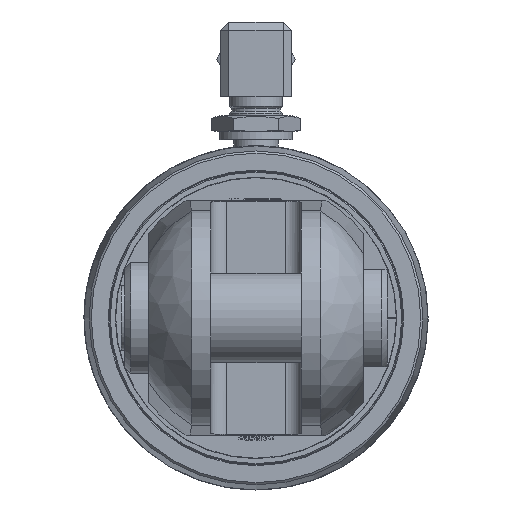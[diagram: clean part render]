
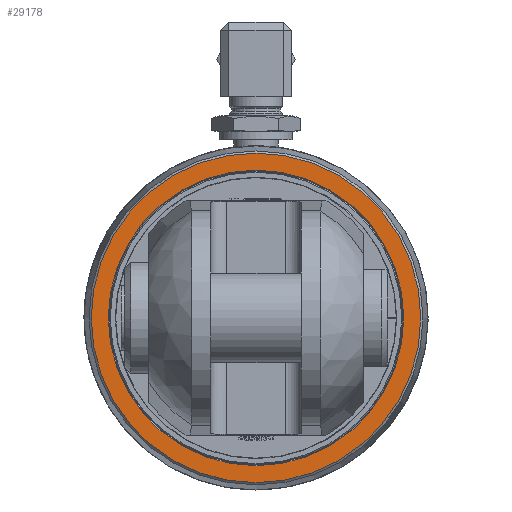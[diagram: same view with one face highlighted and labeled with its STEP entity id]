
A CAD part, left-side view. The second image highlights one B-rep face of the part: STEP entity #29178.
In plain terms, the highlighted planar face has unit normal (-1, 0, 0).
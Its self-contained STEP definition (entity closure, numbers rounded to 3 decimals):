
#163=CIRCLE('',#30901,40.988);
#165=CIRCLE('',#30905,36.75);
#1021=PLANE('',#30904);
#3499=FACE_BOUND('',#5528,.T.);
#3856=FACE_OUTER_BOUND('',#5527,.T.);
#5527=EDGE_LOOP('',(#21134));
#5528=EDGE_LOOP('',(#21135));
#13884=VERTEX_POINT('',#38167);
#13886=VERTEX_POINT('',#38173);
#16747=EDGE_CURVE('',#13884,#13884,#163,.T.);
#16749=EDGE_CURVE('',#13886,#13886,#165,.T.);
#21134=ORIENTED_EDGE('',*,*,#16747,.F.);
#21135=ORIENTED_EDGE('',*,*,#16749,.F.);
#29178=ADVANCED_FACE('',(#3856,#3499),#1021,.F.);
#30901=AXIS2_PLACEMENT_3D('',#38168,#32556,#32557);
#30904=AXIS2_PLACEMENT_3D('',#38172,#32562,#32563);
#30905=AXIS2_PLACEMENT_3D('',#38174,#32564,#32565);
#32556=DIRECTION('center_axis',(1.,0.,0.));
#32557=DIRECTION('ref_axis',(0.,-1.,0.));
#32562=DIRECTION('center_axis',(1.,0.,0.));
#32563=DIRECTION('ref_axis',(0.,0.,-1.));
#32564=DIRECTION('center_axis',(-1.,0.,0.));
#32565=DIRECTION('ref_axis',(0.,-1.,0.));
#38167=CARTESIAN_POINT('',(-417.5,40.988,0.));
#38168=CARTESIAN_POINT('Origin',(-417.5,0.,0.));
#38172=CARTESIAN_POINT('Origin',(-417.5,0.,0.));
#38173=CARTESIAN_POINT('',(-417.5,36.75,0.));
#38174=CARTESIAN_POINT('Origin',(-417.5,0.,0.));
